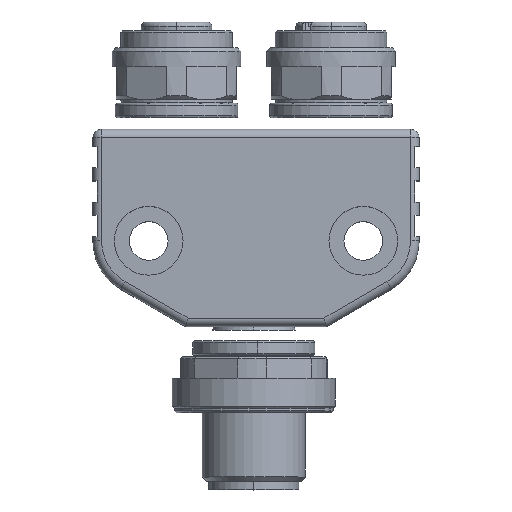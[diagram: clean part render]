
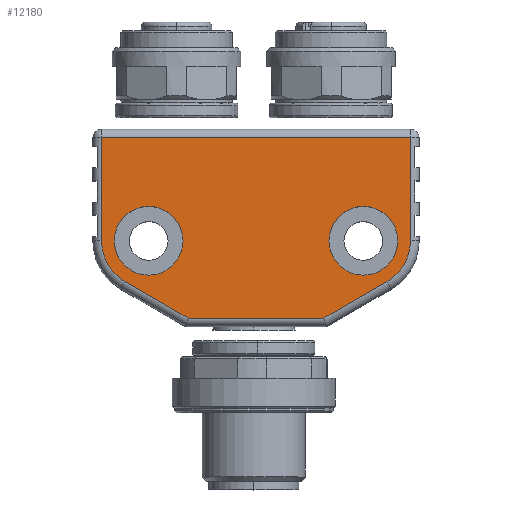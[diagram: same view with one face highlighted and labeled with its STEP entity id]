
A CAD part, top view. The second image highlights one B-rep face of the part: STEP entity #12180.
In plain terms, the highlighted planar face has unit normal (0, 0, 1).
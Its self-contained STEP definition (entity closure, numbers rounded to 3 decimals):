
#27 = FACE_BOUND ( 'NONE', #7491, .T. ) ;
#172 = CARTESIAN_POINT ( 'NONE',  ( 30.75, -11.663, 4.516 ) ) ;
#325 = DIRECTION ( 'NONE',  ( 0., 1., 0. ) ) ;
#409 = LINE ( 'NONE', #8894, #6773 ) ;
#551 = CARTESIAN_POINT ( 'NONE',  ( 28., -10.9, 4.516 ) ) ;
#635 = VERTEX_POINT ( 'NONE', #3536 ) ;
#769 = EDGE_CURVE ( 'NONE', #11915, #8785, #13226, .T. ) ;
#842 = VECTOR ( 'NONE', #11431, 1000. ) ;
#893 = DIRECTION ( 'NONE',  ( 0., 0., 1. ) ) ;
#1008 = AXIS2_PLACEMENT_3D ( 'NONE', #11458, #4892, #5309 ) ;
#1037 = DIRECTION ( 'NONE',  ( 0., 0., -1. ) ) ;
#1126 = DIRECTION ( 'NONE',  ( 0., 0., 1. ) ) ;
#1378 = VERTEX_POINT ( 'NONE', #2667 ) ;
#1500 = EDGE_CURVE ( 'NONE', #14668, #1378, #10519, .T. ) ;
#1571 = VERTEX_POINT ( 'NONE', #12449 ) ;
#1775 = CARTESIAN_POINT ( 'NONE',  ( -2.5, 5.1, 4.516 ) ) ;
#2001 = ORIENTED_EDGE ( 'NONE', *, *, #11939, .T. ) ;
#2209 = ORIENTED_EDGE ( 'NONE', *, *, #9632, .F. ) ;
#2240 = DIRECTION ( 'NONE',  ( 0., 0., 1. ) ) ;
#2258 = AXIS2_PLACEMENT_3D ( 'NONE', #10575, #2240, #9330 ) ;
#2322 = PLANE ( 'NONE',  #3653 ) ;
#2624 = VERTEX_POINT ( 'NONE', #551 ) ;
#2629 = EDGE_CURVE ( 'NONE', #635, #7237, #409, .T. ) ;
#2667 = CARTESIAN_POINT ( 'NONE',  ( 3., -2.9, 4.516 ) ) ;
#2726 = ORIENTED_EDGE ( 'NONE', *, *, #12905, .F. ) ;
#2882 = EDGE_CURVE ( 'NONE', #9904, #11989, #12976, .T. ) ;
#3058 = DIRECTION ( 'NONE',  ( 0., -1., 0. ) ) ;
#3286 = VERTEX_POINT ( 'NONE', #7889 ) ;
#3493 = CARTESIAN_POINT ( 'NONE',  ( -2.5, -6.9, 4.516 ) ) ;
#3536 = CARTESIAN_POINT ( 'NONE',  ( 0.25, -11.663, 4.516 ) ) ;
#3653 = AXIS2_PLACEMENT_3D ( 'NONE', #8994, #1037, #11521 ) ;
#4061 = ORIENTED_EDGE ( 'NONE', *, *, #769, .T. ) ;
#4131 = DIRECTION ( 'NONE',  ( 1., 0., 0. ) ) ;
#4144 = AXIS2_PLACEMENT_3D ( 'NONE', #9206, #893, #8044 ) ;
#4255 = CARTESIAN_POINT ( 'NONE',  ( 3., -6.9, 4.516 ) ) ;
#4391 = CIRCLE ( 'NONE', #7811, 4. ) ;
#4892 = DIRECTION ( 'NONE',  ( 0., 0., 1. ) ) ;
#5075 = VERTEX_POINT ( 'NONE', #13054 ) ;
#5183 = CARTESIAN_POINT ( 'NONE',  ( -2.5, -6.9, 4.516 ) ) ;
#5282 = ORIENTED_EDGE ( 'NONE', *, *, #7024, .T. ) ;
#5309 = DIRECTION ( 'NONE',  ( 0., 1., 0. ) ) ;
#5385 = CARTESIAN_POINT ( 'NONE',  ( 33.5, 5.1, 4.516 ) ) ;
#6022 = CARTESIAN_POINT ( 'NONE',  ( 7.588, -15.9, 4.516 ) ) ;
#6054 = FACE_BOUND ( 'NONE', #9485, .T. ) ;
#6554 = CARTESIAN_POINT ( 'NONE',  ( 28., 5.1, 4.516 ) ) ;
#6579 = VECTOR ( 'NONE', #6863, 1000. ) ;
#6773 = VECTOR ( 'NONE', #13841, 1000. ) ;
#6804 = DIRECTION ( 'NONE',  ( 0., 0., 1. ) ) ;
#6863 = DIRECTION ( 'NONE',  ( 0., -1., 0. ) ) ;
#7024 = EDGE_CURVE ( 'NONE', #7237, #5075, #10586, .T. ) ;
#7093 = ORIENTED_EDGE ( 'NONE', *, *, #2629, .T. ) ;
#7220 = VECTOR ( 'NONE', #12154, 1000. ) ;
#7237 = VERTEX_POINT ( 'NONE', #6022 ) ;
#7469 = ORIENTED_EDGE ( 'NONE', *, *, #2882, .T. ) ;
#7491 = EDGE_LOOP ( 'NONE', ( #2726, #8250 ) ) ;
#7614 = CARTESIAN_POINT ( 'NONE',  ( 3., -10.9, 4.516 ) ) ;
#7643 = EDGE_CURVE ( 'NONE', #11989, #635, #9412, .T. ) ;
#7811 = AXIS2_PLACEMENT_3D ( 'NONE', #8272, #1126, #11706 ) ;
#7838 = EDGE_CURVE ( 'NONE', #2624, #1571, #4391, .T. ) ;
#7889 = CARTESIAN_POINT ( 'NONE',  ( 30.75, -11.663, 4.516 ) ) ;
#8044 = DIRECTION ( 'NONE',  ( 0., -1., 0. ) ) ;
#8092 = ORIENTED_EDGE ( 'NONE', *, *, #7643, .T. ) ;
#8230 = EDGE_LOOP ( 'NONE', ( #9357, #15445, #4061, #2001, #7469, #8092, #7093, #5282 ) ) ;
#8250 = ORIENTED_EDGE ( 'NONE', *, *, #7838, .F. ) ;
#8272 = CARTESIAN_POINT ( 'NONE',  ( 28., -6.9, 4.516 ) ) ;
#8636 = VECTOR ( 'NONE', #14980, 1000. ) ;
#8775 = CARTESIAN_POINT ( 'NONE',  ( 33.5, -6.9, 4.516 ) ) ;
#8785 = VERTEX_POINT ( 'NONE', #5385 ) ;
#8894 = CARTESIAN_POINT ( 'NONE',  ( 19., -22.488, 4.516 ) ) ;
#8994 = CARTESIAN_POINT ( 'NONE',  ( 28., -6.9, 4.516 ) ) ;
#9169 = FACE_OUTER_BOUND ( 'NONE', #8230, .T. ) ;
#9206 = CARTESIAN_POINT ( 'NONE',  ( 28., -6.9, 4.516 ) ) ;
#9330 = DIRECTION ( 'NONE',  ( 0., 1., 0. ) ) ;
#9357 = ORIENTED_EDGE ( 'NONE', *, *, #9974, .T. ) ;
#9412 = CIRCLE ( 'NONE', #10520, 5.5 ) ;
#9485 = EDGE_LOOP ( 'NONE', ( #2209, #11049 ) ) ;
#9632 = EDGE_CURVE ( 'NONE', #1378, #14668, #11370, .T. ) ;
#9904 = VERTEX_POINT ( 'NONE', #1775 ) ;
#9974 = EDGE_CURVE ( 'NONE', #5075, #3286, #10786, .T. ) ;
#10017 = CARTESIAN_POINT ( 'NONE',  ( 33.5, -6.9, 4.516 ) ) ;
#10519 = CIRCLE ( 'NONE', #1008, 4. ) ;
#10520 = AXIS2_PLACEMENT_3D ( 'NONE', #4255, #11423, #3058 ) ;
#10575 = CARTESIAN_POINT ( 'NONE',  ( 3., -6.9, 4.516 ) ) ;
#10586 = LINE ( 'NONE', #13721, #13428 ) ;
#10786 = LINE ( 'NONE', #172, #7220 ) ;
#11049 = ORIENTED_EDGE ( 'NONE', *, *, #1500, .F. ) ;
#11370 = CIRCLE ( 'NONE', #2258, 4. ) ;
#11423 = DIRECTION ( 'NONE',  ( 0., 0., 1. ) ) ;
#11431 = DIRECTION ( 'NONE',  ( 0., 1., 0. ) ) ;
#11458 = CARTESIAN_POINT ( 'NONE',  ( 3., -6.9, 4.516 ) ) ;
#11480 = CIRCLE ( 'NONE', #4144, 5.5 ) ;
#11521 = DIRECTION ( 'NONE',  ( 0., -1., 0. ) ) ;
#11706 = DIRECTION ( 'NONE',  ( 0., 1., 0. ) ) ;
#11915 = VERTEX_POINT ( 'NONE', #8775 ) ;
#11939 = EDGE_CURVE ( 'NONE', #8785, #9904, #15071, .T. ) ;
#11989 = VERTEX_POINT ( 'NONE', #3493 ) ;
#12154 = DIRECTION ( 'NONE',  ( 0.866, 0.5, 0. ) ) ;
#12180 = ADVANCED_FACE ( 'NONE', ( #27, #6054, #9169 ), #2322, .F. ) ;
#12449 = CARTESIAN_POINT ( 'NONE',  ( 28., -2.9, 4.516 ) ) ;
#12530 = EDGE_CURVE ( 'NONE', #3286, #11915, #11480, .T. ) ;
#12905 = EDGE_CURVE ( 'NONE', #1571, #2624, #13348, .T. ) ;
#12976 = LINE ( 'NONE', #5183, #6579 ) ;
#13054 = CARTESIAN_POINT ( 'NONE',  ( 23.412, -15.9, 4.516 ) ) ;
#13226 = LINE ( 'NONE', #10017, #842 ) ;
#13348 = CIRCLE ( 'NONE', #13482, 4. ) ;
#13428 = VECTOR ( 'NONE', #4131, 1000. ) ;
#13482 = AXIS2_PLACEMENT_3D ( 'NONE', #14026, #6804, #325 ) ;
#13721 = CARTESIAN_POINT ( 'NONE',  ( 28., -15.9, 4.516 ) ) ;
#13841 = DIRECTION ( 'NONE',  ( 0.866, -0.5, 0. ) ) ;
#14026 = CARTESIAN_POINT ( 'NONE',  ( 28., -6.9, 4.516 ) ) ;
#14668 = VERTEX_POINT ( 'NONE', #7614 ) ;
#14980 = DIRECTION ( 'NONE',  ( -1., 0., 0. ) ) ;
#15071 = LINE ( 'NONE', #6554, #8636 ) ;
#15445 = ORIENTED_EDGE ( 'NONE', *, *, #12530, .T. ) ;
